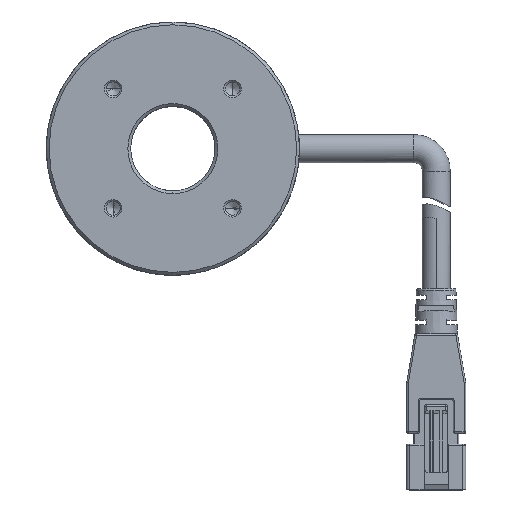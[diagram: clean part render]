
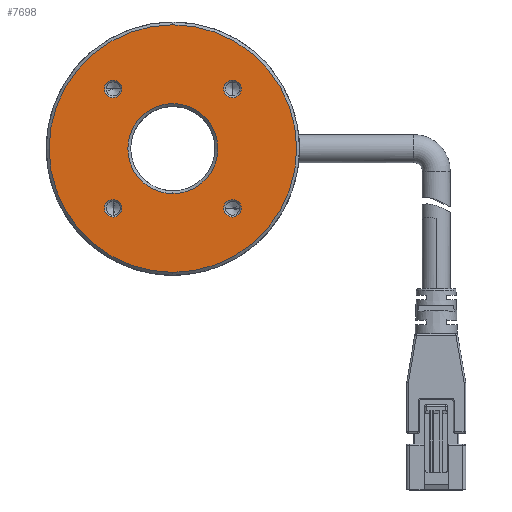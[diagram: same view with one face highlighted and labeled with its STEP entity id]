
A CAD part, top view. The second image highlights one B-rep face of the part: STEP entity #7698.
In plain terms, the highlighted planar face has unit normal (0, 0, 1).
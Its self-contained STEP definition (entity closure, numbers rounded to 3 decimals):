
#2031=CARTESIAN_POINT('',(33.107,33.107,
0.));
#2032=DIRECTION('',(0.,0.,-1.));
#2033=DIRECTION('',(0.,-1.,0.));
#2034=AXIS2_PLACEMENT_3D('',#2031,#2032,#2033);
#2036=CARTESIAN_POINT('',(33.107,33.107,
0.));
#2037=DIRECTION('',(0.,0.,-1.));
#2038=DIRECTION('',(0.,1.,0.));
#2039=AXIS2_PLACEMENT_3D('',#2036,#2037,#2038);
#2041=CARTESIAN_POINT('',(11.893,11.893,
0.));
#2042=DIRECTION('',(0.,0.,-1.));
#2043=DIRECTION('',(0.,1.,0.));
#2044=AXIS2_PLACEMENT_3D('',#2041,#2042,#2043);
#2046=CARTESIAN_POINT('',(11.893,11.893,
0.));
#2047=DIRECTION('',(0.,0.,-1.));
#2048=DIRECTION('',(0.,-1.,0.));
#2049=AXIS2_PLACEMENT_3D('',#2046,#2047,#2048);
#2051=CARTESIAN_POINT('',(22.5,22.5,0.));
#2052=DIRECTION('',(0.,0.,-1.));
#2053=DIRECTION('',(0.,1.,0.));
#2054=AXIS2_PLACEMENT_3D('',#2051,#2052,#2053);
#2056=CARTESIAN_POINT('',(22.5,22.5,0.));
#2057=DIRECTION('',(0.,0.,-1.));
#2058=DIRECTION('',(0.,-1.,0.));
#2059=AXIS2_PLACEMENT_3D('',#2056,#2057,#2058);
#2061=CARTESIAN_POINT('',(22.5,22.5,0.));
#2062=DIRECTION('',(0.,0.,1.));
#2063=DIRECTION('',(0.,1.,0.));
#2064=AXIS2_PLACEMENT_3D('',#2061,#2062,#2063);
#2066=CARTESIAN_POINT('',(22.5,22.5,0.));
#2067=DIRECTION('',(0.,0.,1.));
#2068=DIRECTION('',(0.,-1.,0.));
#2069=AXIS2_PLACEMENT_3D('',#2066,#2067,#2068);
#2075=CARTESIAN_POINT('',(11.893,33.107,
0.));
#2076=DIRECTION('',(0.,0.,-1.));
#2077=DIRECTION('',(1.,0.,0.));
#2078=AXIS2_PLACEMENT_3D('',#2075,#2076,#2077);
#2089=CARTESIAN_POINT('',(11.893,33.107,
0.));
#2090=DIRECTION('',(0.,0.,-1.));
#2091=DIRECTION('',(-1.,0.,0.));
#2092=AXIS2_PLACEMENT_3D('',#2089,#2090,#2091);
#2217=CARTESIAN_POINT('',(33.107,11.893,
0.));
#2218=DIRECTION('',(0.,0.,-1.));
#2219=DIRECTION('',(-1.,0.,0.));
#2220=AXIS2_PLACEMENT_3D('',#2217,#2218,#2219);
#2231=CARTESIAN_POINT('',(33.107,11.893,
0.));
#2232=DIRECTION('',(0.,0.,-1.));
#2233=DIRECTION('',(1.,0.,0.));
#2234=AXIS2_PLACEMENT_3D('',#2231,#2232,#2233);
#4563=CARTESIAN_POINT('',(22.5,0.5,0.));
#4564=CARTESIAN_POINT('',(22.5,44.5,0.));
#4565=VERTEX_POINT('',#4563);
#4566=VERTEX_POINT('',#4564);
#4567=CARTESIAN_POINT('',(22.5,14.5,
0.));
#4568=CARTESIAN_POINT('',(22.5,30.5,0.));
#4569=VERTEX_POINT('',#4567);
#4570=VERTEX_POINT('',#4568);
#4571=CARTESIAN_POINT('',(11.893,10.343,
0.));
#4572=CARTESIAN_POINT('',(11.893,13.443,
0.));
#4573=VERTEX_POINT('',#4571);
#4574=VERTEX_POINT('',#4572);
#4575=CARTESIAN_POINT('',(33.107,34.657,
0.));
#4576=CARTESIAN_POINT('',(33.107,31.557,
0.));
#4577=VERTEX_POINT('',#4575);
#4578=VERTEX_POINT('',#4576);
#4640=CARTESIAN_POINT('',(31.557,11.893,
0.));
#4642=VERTEX_POINT('',#4640);
#4645=CARTESIAN_POINT('',(34.657,11.893,
0.));
#4647=VERTEX_POINT('',#4645);
#4674=CARTESIAN_POINT('',(13.443,33.107,
0.));
#4676=VERTEX_POINT('',#4674);
#4679=CARTESIAN_POINT('',(10.343,33.107,
0.));
#4681=VERTEX_POINT('',#4679);
#7659=CARTESIAN_POINT('',(22.5,22.5,0.));
#7660=DIRECTION('',(0.,0.,-1.));
#7661=DIRECTION('',(0.,1.,0.));
#7662=AXIS2_PLACEMENT_3D('',#7659,#7660,#7661);
#7663=PLANE('',#7662);
#7665=ORIENTED_EDGE('',*,*,#7664,.F.);
#7667=ORIENTED_EDGE('',*,*,#7666,.F.);
#7668=EDGE_LOOP('',(#7665,#7667));
#7669=FACE_OUTER_BOUND('',#7668,.F.);
#7671=ORIENTED_EDGE('',*,*,#7670,.F.);
#7673=ORIENTED_EDGE('',*,*,#7672,.F.);
#7674=EDGE_LOOP('',(#7671,#7673));
#7675=FACE_BOUND('',#7674,.F.);
#7677=ORIENTED_EDGE('',*,*,#7676,.F.);
#7679=ORIENTED_EDGE('',*,*,#7678,.F.);
#7680=EDGE_LOOP('',(#7677,#7679));
#7681=FACE_BOUND('',#7680,.F.);
#7683=ORIENTED_EDGE('',*,*,#7682,.F.);
#7685=ORIENTED_EDGE('',*,*,#7684,.F.);
#7686=EDGE_LOOP('',(#7683,#7685));
#7687=FACE_BOUND('',#7686,.F.);
#7688=ORIENTED_EDGE('',*,*,#7645,.F.);
#7689=ORIENTED_EDGE('',*,*,#7624,.F.);
#7690=EDGE_LOOP('',(#7688,#7689));
#7691=FACE_BOUND('',#7690,.F.);
#7693=ORIENTED_EDGE('',*,*,#7692,.F.);
#7695=ORIENTED_EDGE('',*,*,#7694,.F.);
#7696=EDGE_LOOP('',(#7693,#7695));
#7697=FACE_BOUND('',#7696,.F.);
#7698=ADVANCED_FACE('',(#7669,#7675,#7681,#7687,#7691,#7697),#7663,.F.);
#2035=CIRCLE('',#2034,1.55);
#2040=CIRCLE('',#2039,1.55);
#2045=CIRCLE('',#2044,1.55);
#2050=CIRCLE('',#2049,1.55);
#2055=CIRCLE('',#2054,8.);
#2060=CIRCLE('',#2059,8.);
#2065=CIRCLE('',#2064,22.);
#2070=CIRCLE('',#2069,22.);
#2079=CIRCLE('',#2078,1.55);
#2093=CIRCLE('',#2092,1.55);
#2221=CIRCLE('',#2220,1.55);
#2235=CIRCLE('',#2234,1.55);
#7624=EDGE_CURVE('',#4569,#4570,#2060,.T.);
#7645=EDGE_CURVE('',#4570,#4569,#2055,.T.);
#7664=EDGE_CURVE('',#4566,#4565,#2065,.T.);
#7666=EDGE_CURVE('',#4565,#4566,#2070,.T.);
#7670=EDGE_CURVE('',#4578,#4577,#2035,.T.);
#7672=EDGE_CURVE('',#4577,#4578,#2040,.T.);
#7676=EDGE_CURVE('',#4574,#4573,#2045,.T.);
#7678=EDGE_CURVE('',#4573,#4574,#2050,.T.);
#7682=EDGE_CURVE('',#4642,#4647,#2221,.T.);
#7684=EDGE_CURVE('',#4647,#4642,#2235,.T.);
#7692=EDGE_CURVE('',#4676,#4681,#2079,.T.);
#7694=EDGE_CURVE('',#4681,#4676,#2093,.T.);
